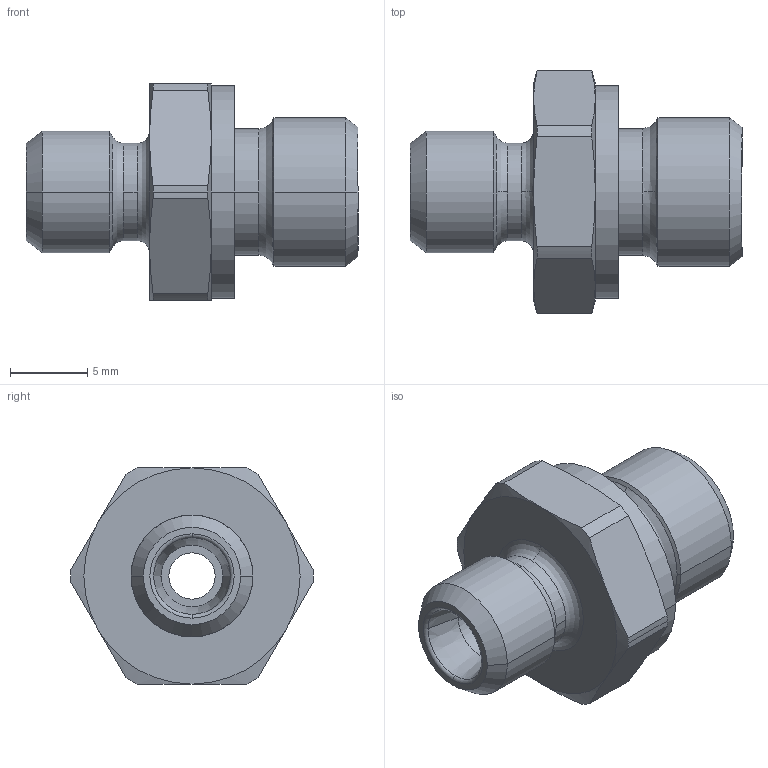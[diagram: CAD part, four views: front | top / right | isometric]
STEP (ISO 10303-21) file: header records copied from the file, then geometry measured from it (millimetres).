
FILE_DESCRIPTION((''),'2;1');
FILE_NAME('100501.stp','2007-10-30T14:14:59',(''),(''),'AutoCAD STEP 2000i','AutoCAD 2000i',', , ');
FILE_SCHEMA(('CONFIG_CONTROL_DESIGN'));
Length unit declared in the file: millimetre
Products named in the file (2): 100501.0; CHIAVE SMUSSATA#0
Assembly tree (1 placements, depth 2):
  100501.0
    CHIAVE SMUSSATA#0
Bounding box: 21.5 x 15.7 x 14 mm (x, y, z)
Volume: 1506.8 mm3; surface area: 1259.5 mm2
Topology: 1 solids, 1 shells, 75 faces, 185 edges, 117 vertices
Faces by surface type: cylinder 24, cone 24, plane 13, bspline 12, torus 2
Entity records: 2835 total; most frequent: CARTESIAN_POINT 955, DIRECTION 410, ORIENTED_EDGE 370, EDGE_CURVE 185, AXIS2_PLACEMENT_3D 184, CIRCLE 119, VERTEX_POINT 117, EDGE_LOOP 82
